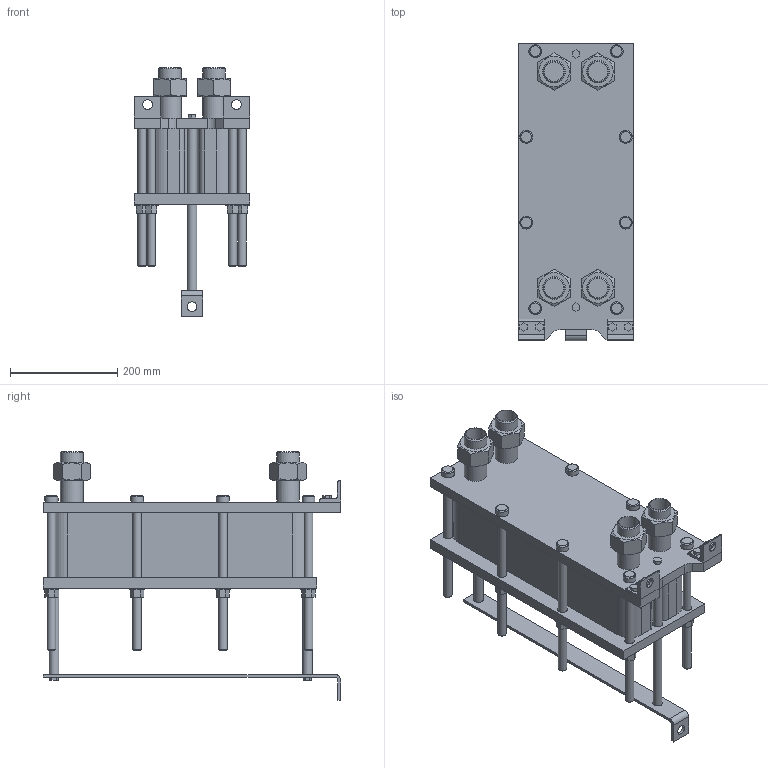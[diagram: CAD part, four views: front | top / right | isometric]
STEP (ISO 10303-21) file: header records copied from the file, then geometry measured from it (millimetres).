
FILE_DESCRIPTION(/* description */ (''),/* implementation_level */ '2;1');
FILE_NAME(/* name */ 'C:\Users\zhuro\Desktop\ENCO\TO\ЭН-004\ЭН-0,5-004-39-1.stp',/* time_stamp */ '2022-06-06T10:46:13+03:00',/* author */ ('zhuro'),/* organization */ (''),/* preprocessor_version */ 'ST-DEVELOPER v18.1',/* originating_system */ 'Autodesk Inventor 2022',/* authorisation */ '');
FILE_SCHEMA (('AUTOMOTIVE_DESIGN { 1 0 10303 214 3 1 1 }'));
Length unit declared in the file: millimetre
Products named in the file (1): ЭН-0,5-004-39-1
Bounding box: 216 x 555 x 464.2 mm (x, y, z)
Volume: 14607419.4 mm3; surface area: 1220801.7 mm2
Topology: 40 solids, 40 shells, 403 faces, 865 edges, 574 vertices
Faces by surface type: plane 272, cylinder 103, cone 28
Full cylindrical faces by diameter (mm): 10 x4, 16 x16, 18 x29, 20 x2, 24 x8, 28 x8, 36.3 x5, 42.3 x9
Entity records: 11137 total; most frequent: CARTESIAN_POINT 1939, DIRECTION 1879, ORIENTED_EDGE 1730, EDGE_CURVE 865, AXIS2_PLACEMENT_3D 658, VERTEX_POINT 574, LINE 563, VECTOR 563
